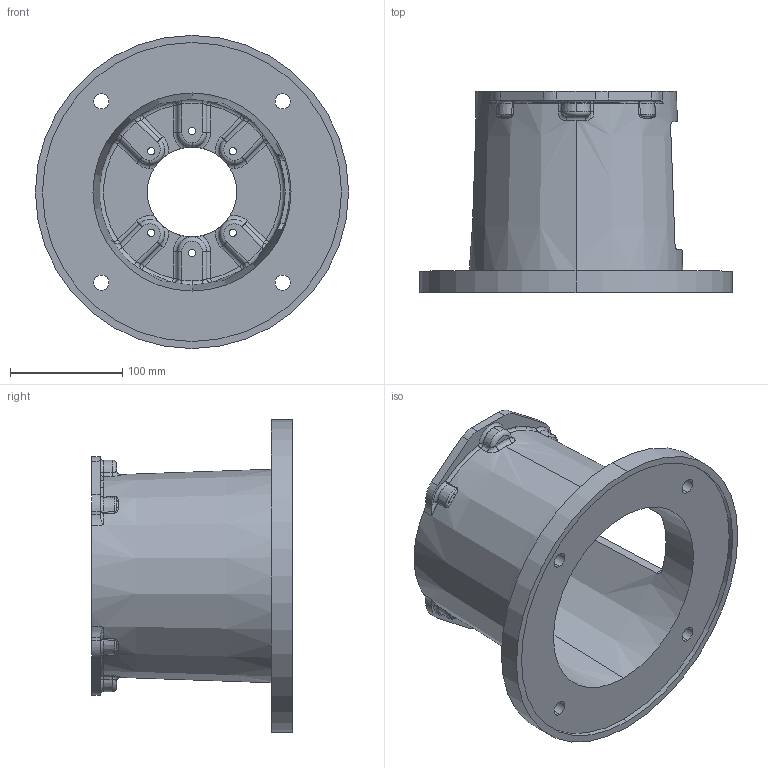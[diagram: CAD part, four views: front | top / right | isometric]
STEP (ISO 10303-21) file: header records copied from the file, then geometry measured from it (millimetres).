
FILE_DESCRIPTION (( 'STEP AP203' ), '1' );
FILE_NAME ('M2846880M.STEP', '2015-01-19T16:31:33', ( '' ), ( '' ), 'SwSTEP 2.0', 'SolidWorks 2014', '' );
FILE_SCHEMA (( 'CONFIG_CONTROL_DESIGN' ));
Length unit declared in the file: inch
Products named in the file (1): M2846880M
Bounding box: 279.4 x 179.32 x 279.4 mm (x, y, z)
Volume: 1414053.4 mm3; surface area: 315048.9 mm2
Topology: 1 solids, 1 shells, 339 faces, 853 edges, 498 vertices
Faces by surface type: torus 97, cylinder 86, bspline 64, plane 50, sphere 24, cone 18
Entity records: 13893 total; most frequent: CARTESIAN_POINT 6121, ORIENTED_EDGE 1666, DIRECTION 1634, EDGE_CURVE 833, AXIS2_PLACEMENT_3D 737, VERTEX_POINT 498, CIRCLE 461, EDGE_LOOP 365
